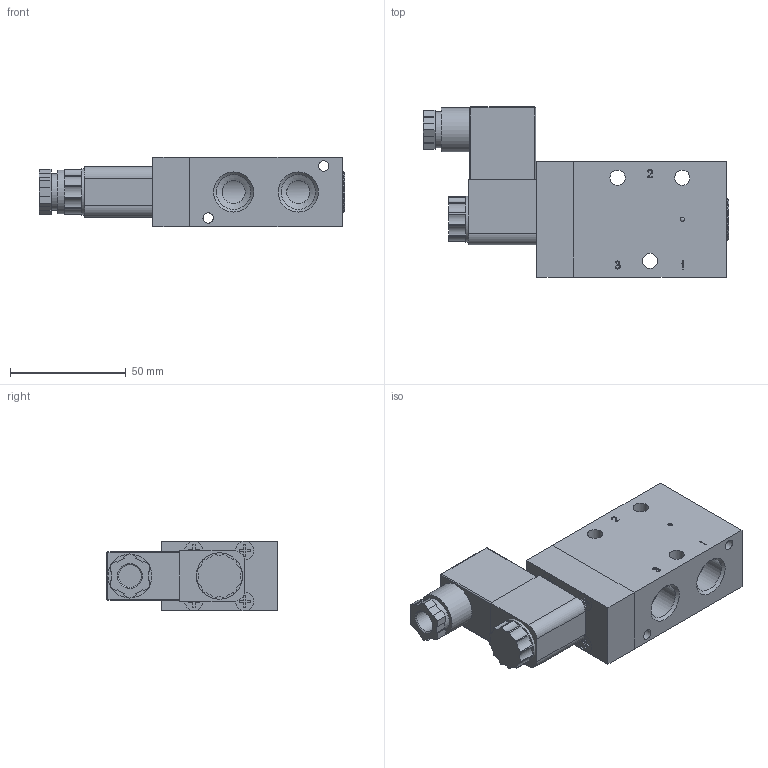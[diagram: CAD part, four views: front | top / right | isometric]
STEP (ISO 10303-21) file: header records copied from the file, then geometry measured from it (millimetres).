
FILE_DESCRIPTION(/* description */ ('Unknown','CAx-IF Rec.Pracs.---Representation and Presentation of Product Manufacturing Information (PMI)---4.0---2014-10-13','CAx-IF Rec.Pracs.---3D Tessellated Geometry---0.4---2014-09-14','2;1'),/* implementation_level */ '2;1');
FILE_NAME(/* name */ 'MH 310 101 G + MA 22 24DC + ST22',/* time_stamp */ '2019-05-23T08:20:59+02:00',/* author */ ('Unknown'),/* organization */ ('Unknown'),/* preprocessor_version */ 'ST-DEVELOPER v16.7',/* originating_system */ 'DEX',/* authorisation */ $);
FILE_SCHEMA (('AP242_MANAGED_MODEL_BASED_3D_ENGINEERING_MIM_LF { 1 0 10303 442 20130219 1 4 }'));
Length unit declared in the file: millimetre
Products named in the file (2): MH 310 101 G + MA 22 24DC + ST22
Assembly tree (1 placements, depth 2):
  MH 310 101 G + MA 22 24DC + ST22
    MH 310 101 G + MA 22 24DC + ST22
Bounding box: 132 x 73.7 x 30 mm (x, y, z)
Volume: 138512.2 mm3; surface area: 42735.2 mm2
Topology: 6 solids, 10 shells, 381 faces, 958 edges, 630 vertices
Faces by surface type: plane 246, cylinder 86, cone 25, bspline 18, sphere 5, torus 1
Full cylindrical faces by diameter (mm): 1.5 x3, 1.85 x2, 2.459 x2, 3.236 x1, 3.242 x8, 4.5 x2, 6 x1, 6.1 x1, 6.6 x3, 7.3 x1, 7.9 x4, 8 x1, 8.15 x1, 8.5 x1, 9 x1, 9.15 x1, 9.75 x1, 10 x3, 11.6 x1, 13 x1, 14.5 x1, 14.95 x6, 15.6 x1, 16 x2, 17 x1, 17.06 x1, 18 x1, 19 x1, 20 x1
Entity records: 14169 total; most frequent: CARTESIAN_POINT 2979, DIRECTION 1692, ORIENTED_EDGE 1630, EDGE_CURVE 815, VERTEX_POINT 587, LINE 568, VECTOR 568, AXIS2_PLACEMENT_3D 562
